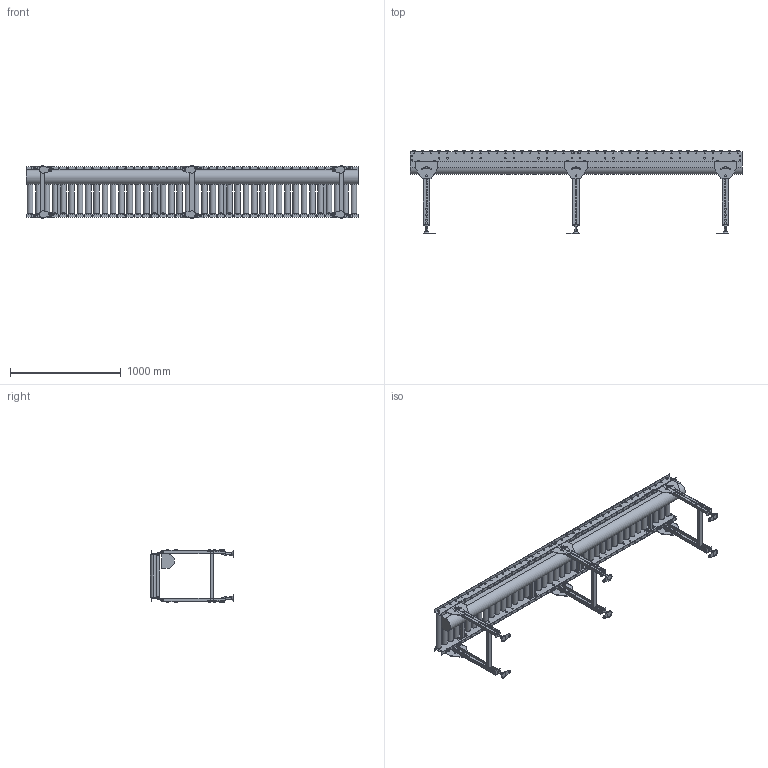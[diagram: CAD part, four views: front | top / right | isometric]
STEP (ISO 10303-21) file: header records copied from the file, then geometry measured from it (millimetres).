
FILE_DESCRIPTION (( 'STEP AP214' ), '1' );
FILE_NAME ('MCD50-ストレート-75P-400.STEP', '2022-08-01T02:06:00', ( '' ), ( '' ), 'SwSTEP 2.0', 'SolidWorks 2017', '' );
FILE_SCHEMA (( 'AUTOMOTIVE_DESIGN' ));
Length unit declared in the file: millimetre
Products named in the file (1): MCD50-ストレート-75P-400
Bounding box: 3000 x 750 x 484.4 mm (x, y, z)
Volume: 80334967.1 mm3; surface area: 7347486.4 mm2
Topology: 28 solids, 74 shells, 4058 faces, 11056 edges, 7024 vertices
Faces by surface type: plane 2573, cylinder 1473, cone 12
Entity records: 175013 total; most frequent: DIRECTION 23112, CARTESIAN_POINT 22535, ORIENTED_EDGE 22112, EDGE_CURVE 11056, AXIS2_PLACEMENT_3D 8009, VECTOR 7094, LINE 7094, VERTEX_POINT 7024
